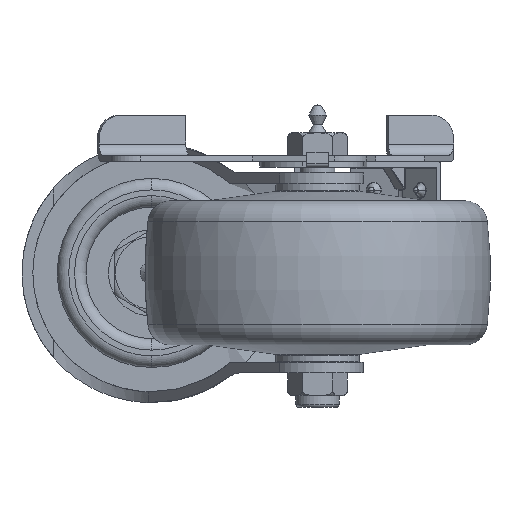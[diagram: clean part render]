
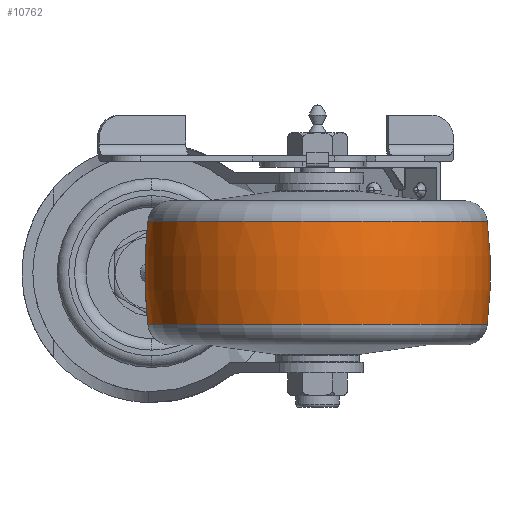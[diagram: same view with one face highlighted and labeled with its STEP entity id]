
A CAD part, front view. The second image highlights one B-rep face of the part: STEP entity #10762.
In plain terms, the highlighted toroidal (fillet/blend) face has major radius 68.269 mm and minor radius 106.369 mm.
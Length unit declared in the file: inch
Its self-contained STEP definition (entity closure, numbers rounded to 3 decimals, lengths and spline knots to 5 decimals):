
#1370 = VERTEX_POINT ( 'NONE', #14321 ) ;
#2683 = VERTEX_POINT ( 'NONE', #16434 ) ;
#2836 = DIRECTION ( 'NONE',  ( 0.997, 0.077, 0. ) ) ;
#6124 = DIRECTION ( 'NONE',  ( -0.997, -0.077, 0. ) ) ;
#6328 = DIRECTION ( 'NONE',  ( 0., 0., 1. ) ) ;
#7244 = VERTEX_POINT ( 'NONE', #37466 ) ;
#7390 = TOROIDAL_SURFACE ( 'NONE', #10642, -2.68776, 4.18776 ) ;
#7410 = AXIS2_PLACEMENT_3D ( 'NONE', #14707, #20995, #8582 ) ;
#8582 = DIRECTION ( 'NONE',  ( 0.997, 0.077, 0. ) ) ;
#10396 = CIRCLE ( 'NONE', #7410, 4.18776 ) ;
#10642 = AXIS2_PLACEMENT_3D ( 'NONE', #12216, #6328, #2836 ) ;
#10762 = ADVANCED_FACE ( 'NONE', ( #20469 ), #7390, .T. ) ;
#11129 = CIRCLE ( 'NONE', #28550, 1.47615 ) ;
#12216 = CARTESIAN_POINT ( 'NONE',  ( 1.4375, -4.18, 0. ) ) ;
#12353 = DIRECTION ( 'NONE',  ( -0.997, -0.077, 0. ) ) ;
#13527 = ORIENTED_EDGE ( 'NONE', *, *, #33955, .F. ) ;
#14321 = CARTESIAN_POINT ( 'NONE',  ( 2.90926, -4.06629, -0.44632 ) ) ;
#14707 = CARTESIAN_POINT ( 'NONE',  ( -1.24227, -4.38703, 0. ) ) ;
#15270 = CARTESIAN_POINT ( 'NONE',  ( 1.4375, -4.18, -0.44632 ) ) ;
#15362 = DIRECTION ( 'NONE',  ( 0., 0., -1. ) ) ;
#16274 = CIRCLE ( 'NONE', #30544, 4.18776 ) ;
#16434 = CARTESIAN_POINT ( 'NONE',  ( -0.03426, -4.29371, -0.44632 ) ) ;
#17394 = ORIENTED_EDGE ( 'NONE', *, *, #28198, .T. ) ;
#18554 = DIRECTION ( 'NONE',  ( 0.997, 0.077, 0. ) ) ;
#19417 = ORIENTED_EDGE ( 'NONE', *, *, #33848, .T. ) ;
#20469 = FACE_OUTER_BOUND ( 'NONE', #33778, .T. ) ;
#20546 = AXIS2_PLACEMENT_3D ( 'NONE', #27092, #15362, #12353 ) ;
#20995 = DIRECTION ( 'NONE',  ( 0.077, -0.997, 0. ) ) ;
#21265 = CARTESIAN_POINT ( 'NONE',  ( 4.11727, -3.97297, 0. ) ) ;
#23968 = ORIENTED_EDGE ( 'NONE', *, *, #38064, .T. ) ;
#24146 = DIRECTION ( 'NONE',  ( 0., 0., 1. ) ) ;
#26966 = CARTESIAN_POINT ( 'NONE',  ( 2.90926, -4.06629, 0.44632 ) ) ;
#27092 = CARTESIAN_POINT ( 'NONE',  ( 1.4375, -4.18, 0.44632 ) ) ;
#28198 = EDGE_CURVE ( 'NONE', #32291, #7244, #37115, .T. ) ;
#28550 = AXIS2_PLACEMENT_3D ( 'NONE', #15270, #24146, #18554 ) ;
#30544 = AXIS2_PLACEMENT_3D ( 'NONE', #21265, #33247, #6124 ) ;
#32291 = VERTEX_POINT ( 'NONE', #26966 ) ;
#33247 = DIRECTION ( 'NONE',  ( -0.077, 0.997, 0. ) ) ;
#33778 = EDGE_LOOP ( 'NONE', ( #13527, #19417, #23968, #17394 ) ) ;
#33848 = EDGE_CURVE ( 'NONE', #2683, #1370, #11129, .T. ) ;
#33955 = EDGE_CURVE ( 'NONE', #2683, #7244, #16274, .T. ) ;
#37115 = CIRCLE ( 'NONE', #20546, 1.47615 ) ;
#37466 = CARTESIAN_POINT ( 'NONE',  ( -0.03426, -4.29371, 0.44632 ) ) ;
#38064 = EDGE_CURVE ( 'NONE', #1370, #32291, #10396, .T. ) ;
